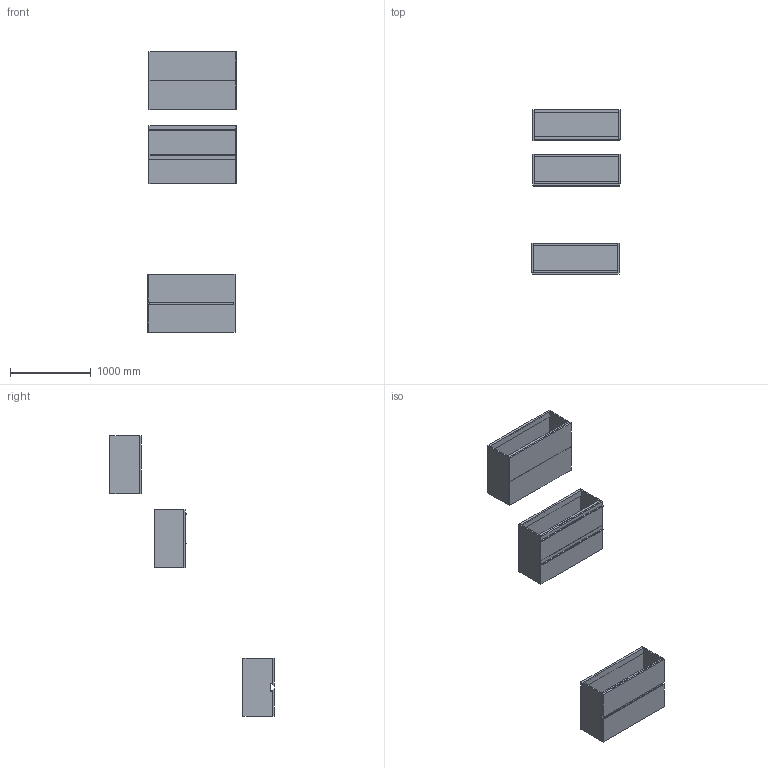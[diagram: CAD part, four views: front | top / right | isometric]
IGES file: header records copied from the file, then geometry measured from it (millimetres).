
Start section: Data from Parasolid IGES Translator 19.0.9, Copyright(c) 2006 Siemens PL M Software. All Rights Reserved.
Global section: file name: noorth-SI-H 72 D 38,8 W 108_8596.igs; native system: By Siemens PLM Incorporated; preprocessor: XPlus GENERIC/IGES 19.0.9; author: Noname; organization: Noname; date: 20200601.114907; units: metre
Bounding box: 1091.38 x 2036 x 3480.32 mm (x, y, z)
Volume: 102636126 mm3; surface area: 16403887.2 mm2
Topology: 27 solids, 27 shells, 266 faces, 580 edges, 348 vertices
Faces by surface type: plane 182, extrusion 36, bspline 32, cylinder 16
